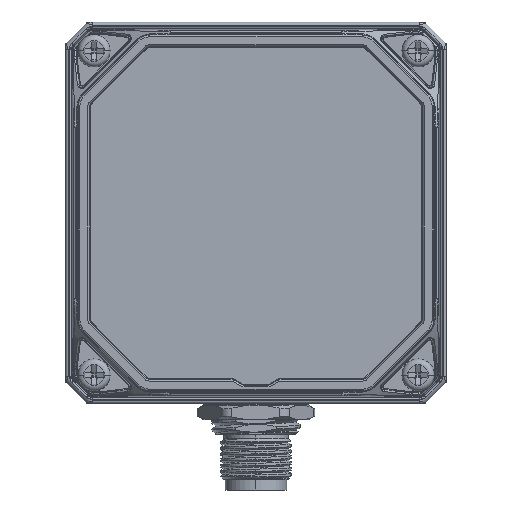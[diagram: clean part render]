
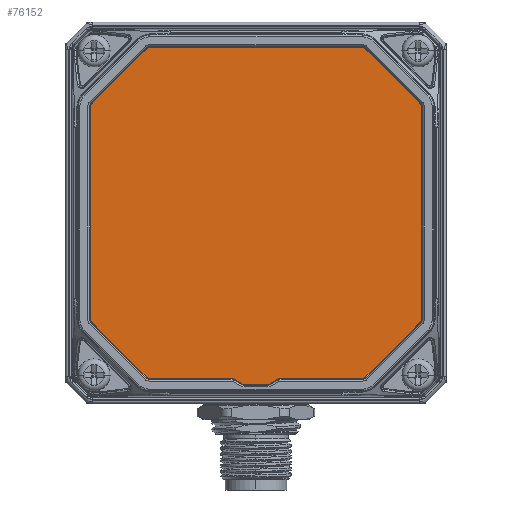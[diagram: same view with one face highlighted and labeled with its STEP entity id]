
A CAD part, left-side view. The second image highlights one B-rep face of the part: STEP entity #76152.
In plain terms, the highlighted planar face has unit normal (-1, 0, 0).
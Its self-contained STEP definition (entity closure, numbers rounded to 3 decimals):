
#23614=DIRECTION('',(0.,-1.,0.));
#23615=VECTOR('',#23614,13.918);
#23616=CARTESIAN_POINT('',(-29.4,18.086,-28.3));
#23617=LINE('',#23616,#23615);
#23622=CARTESIAN_POINT('',(-29.4,1.9,-28.3));
#23623=DIRECTION('',(1.,0.,0.));
#23624=DIRECTION('',(0.,0.,-1.));
#23625=AXIS2_PLACEMENT_3D('',#23622,#23623,#23624);
#23627=DIRECTION('',(0.,0.866,0.5));
#23628=VECTOR('',#23627,1.464);
#23629=CARTESIAN_POINT('',(-29.4,2.4,-29.166));
#23630=LINE('',#23629,#23628);
#23631=CARTESIAN_POINT('',(-29.4,4.168,-29.3));
#23632=DIRECTION('',(-1.,0.,0.));
#23633=DIRECTION('',(0.,-0.5,0.866));
#23634=AXIS2_PLACEMENT_3D('',#23631,#23632,#23633);
#23636=CARTESIAN_POINT('',(-29.4,18.086,-27.3));
#23637=DIRECTION('',(1.,0.,0.));
#23638=DIRECTION('',(0.,0.,-1.));
#23639=AXIS2_PLACEMENT_3D('',#23636,#23637,#23638);
#23641=DIRECTION('',(0.,0.707,0.707));
#23642=VECTOR('',#23641,13.031);
#23643=CARTESIAN_POINT('',(-29.4,18.793,-28.007));
#23644=LINE('',#23643,#23642);
#23645=CARTESIAN_POINT('',(-29.4,27.3,-18.086));
#23646=DIRECTION('',(1.,0.,0.));
#23647=DIRECTION('',(0.,0.707,-0.707));
#23648=AXIS2_PLACEMENT_3D('',#23645,#23646,#23647);
#23650=CARTESIAN_POINT('',(-29.4,27.3,18.086));
#23651=DIRECTION('',(1.,0.,0.));
#23652=DIRECTION('',(0.,1.,0.));
#23653=AXIS2_PLACEMENT_3D('',#23650,#23651,#23652);
#23655=DIRECTION('',(0.,-0.707,0.707));
#23656=VECTOR('',#23655,13.031);
#23657=CARTESIAN_POINT('',(-29.4,28.007,18.793));
#23658=LINE('',#23657,#23656);
#23659=CARTESIAN_POINT('',(-29.4,18.086,27.3));
#23660=DIRECTION('',(1.,0.,0.));
#23661=DIRECTION('',(0.,0.707,0.707));
#23662=AXIS2_PLACEMENT_3D('',#23659,#23660,#23661);
#23664=CARTESIAN_POINT('',(-29.4,-18.086,27.3));
#23665=DIRECTION('',(1.,0.,0.));
#23666=DIRECTION('',(0.,0.,1.));
#23667=AXIS2_PLACEMENT_3D('',#23664,#23665,#23666);
#23669=DIRECTION('',(0.,-0.707,-0.707));
#23670=VECTOR('',#23669,13.031);
#23671=CARTESIAN_POINT('',(-29.4,-18.793,28.007));
#23672=LINE('',#23671,#23670);
#23673=CARTESIAN_POINT('',(-29.4,-27.3,18.086));
#23674=DIRECTION('',(1.,0.,0.));
#23675=DIRECTION('',(0.,-0.707,0.707));
#23676=AXIS2_PLACEMENT_3D('',#23673,#23674,#23675);
#23678=CARTESIAN_POINT('',(-29.4,-27.3,-18.086));
#23679=DIRECTION('',(1.,0.,0.));
#23680=DIRECTION('',(0.,-1.,0.));
#23681=AXIS2_PLACEMENT_3D('',#23678,#23679,#23680);
#23683=DIRECTION('',(0.,0.707,-0.707));
#23684=VECTOR('',#23683,13.031);
#23685=CARTESIAN_POINT('',(-29.4,-28.007,-18.793));
#23686=LINE('',#23685,#23684);
#23687=CARTESIAN_POINT('',(-29.4,-18.086,-27.3));
#23688=DIRECTION('',(1.,0.,0.));
#23689=DIRECTION('',(0.,-0.707,-0.707));
#23690=AXIS2_PLACEMENT_3D('',#23687,#23688,#23689);
#23692=CARTESIAN_POINT('',(-29.4,-4.168,-29.3));
#23693=DIRECTION('',(-1.,0.,0.));
#23694=DIRECTION('',(0.,0.,1.));
#23695=AXIS2_PLACEMENT_3D('',#23692,#23693,#23694);
#23697=DIRECTION('',(0.,0.866,-0.5));
#23698=VECTOR('',#23697,1.464);
#23699=CARTESIAN_POINT('',(-29.4,-3.668,-28.434));
#23700=LINE('',#23699,#23698);
#23701=CARTESIAN_POINT('',(-29.4,-1.9,-28.3));
#23702=DIRECTION('',(1.,0.,0.));
#23703=DIRECTION('',(0.,-0.5,-0.866));
#23704=AXIS2_PLACEMENT_3D('',#23701,#23702,#23703);
#23718=DIRECTION('',(0.,0.,-1.));
#23719=VECTOR('',#23718,36.172);
#23720=CARTESIAN_POINT('',(-29.4,28.3,18.086));
#23721=LINE('',#23720,#23719);
#23742=DIRECTION('',(0.,1.,0.));
#23743=VECTOR('',#23742,36.172);
#23744=CARTESIAN_POINT('',(-29.4,-18.086,28.3));
#23745=LINE('',#23744,#23743);
#23770=DIRECTION('',(0.,0.,1.));
#23771=VECTOR('',#23770,36.172);
#23772=CARTESIAN_POINT('',(-29.4,-28.3,-18.086));
#23773=LINE('',#23772,#23771);
#23790=DIRECTION('',(0.,-1.,0.));
#23791=VECTOR('',#23790,13.918);
#23792=CARTESIAN_POINT('',(-29.4,-4.168,-28.3));
#23793=LINE('',#23792,#23791);
#23814=DIRECTION('',(0.,-1.,0.));
#23815=VECTOR('',#23814,3.8);
#23816=CARTESIAN_POINT('',(-29.4,1.9,-29.3));
#23817=LINE('',#23816,#23815);
#29564=CARTESIAN_POINT('',(-29.4,1.9,-29.3));
#29565=CARTESIAN_POINT('',(-29.4,2.4,-29.166));
#29566=VERTEX_POINT('',#29564);
#29567=VERTEX_POINT('',#29565);
#29568=CARTESIAN_POINT('',(-29.4,3.668,-28.434));
#29569=VERTEX_POINT('',#29568);
#29570=CARTESIAN_POINT('',(-29.4,4.168,-28.3));
#29571=VERTEX_POINT('',#29570);
#29572=CARTESIAN_POINT('',(-29.4,18.086,-28.3));
#29573=VERTEX_POINT('',#29572);
#29574=CARTESIAN_POINT('',(-29.4,18.793,-28.007));
#29575=VERTEX_POINT('',#29574);
#29576=CARTESIAN_POINT('',(-29.4,28.007,-18.793));
#29577=VERTEX_POINT('',#29576);
#29578=CARTESIAN_POINT('',(-29.4,28.3,-18.086));
#29579=VERTEX_POINT('',#29578);
#29580=CARTESIAN_POINT('',(-29.4,28.3,18.086));
#29581=VERTEX_POINT('',#29580);
#29582=CARTESIAN_POINT('',(-29.4,28.007,18.793));
#29583=VERTEX_POINT('',#29582);
#29584=CARTESIAN_POINT('',(-29.4,18.793,28.007));
#29585=VERTEX_POINT('',#29584);
#29586=CARTESIAN_POINT('',(-29.4,18.086,28.3));
#29587=VERTEX_POINT('',#29586);
#29588=CARTESIAN_POINT('',(-29.4,-18.086,28.3));
#29589=VERTEX_POINT('',#29588);
#29590=CARTESIAN_POINT('',(-29.4,-18.793,28.007));
#29591=VERTEX_POINT('',#29590);
#29592=CARTESIAN_POINT('',(-29.4,-28.007,18.793));
#29593=VERTEX_POINT('',#29592);
#29594=CARTESIAN_POINT('',(-29.4,-28.3,18.086));
#29595=VERTEX_POINT('',#29594);
#29596=CARTESIAN_POINT('',(-29.4,-28.3,-18.086));
#29597=VERTEX_POINT('',#29596);
#29598=CARTESIAN_POINT('',(-29.4,-28.007,-18.793));
#29599=VERTEX_POINT('',#29598);
#29600=CARTESIAN_POINT('',(-29.4,-18.793,-28.007));
#29601=VERTEX_POINT('',#29600);
#29602=CARTESIAN_POINT('',(-29.4,-18.086,-28.3));
#29603=VERTEX_POINT('',#29602);
#29604=CARTESIAN_POINT('',(-29.4,-4.168,-28.3));
#29605=VERTEX_POINT('',#29604);
#29606=CARTESIAN_POINT('',(-29.4,-3.668,-28.434));
#29607=VERTEX_POINT('',#29606);
#29608=CARTESIAN_POINT('',(-29.4,-2.4,-29.166));
#29609=VERTEX_POINT('',#29608);
#29610=CARTESIAN_POINT('',(-29.4,-1.9,-29.3));
#29611=VERTEX_POINT('',#29610);
#76102=CARTESIAN_POINT('',(-29.4,0.,-0.5));
#76103=DIRECTION('',(1.,0.,0.));
#76104=DIRECTION('',(0.,0.,1.));
#76105=AXIS2_PLACEMENT_3D('',#76102,#76103,#76104);
#76106=PLANE('',#76105);
#76107=ORIENTED_EDGE('',*,*,#76039,.T.);
#76108=ORIENTED_EDGE('',*,*,#76055,.T.);
#76109=ORIENTED_EDGE('',*,*,#76067,.T.);
#76110=ORIENTED_EDGE('',*,*,#76083,.F.);
#76111=ORIENTED_EDGE('',*,*,#76093,.T.);
#76113=ORIENTED_EDGE('',*,*,#76112,.T.);
#76115=ORIENTED_EDGE('',*,*,#76114,.T.);
#76117=ORIENTED_EDGE('',*,*,#76116,.F.);
#76119=ORIENTED_EDGE('',*,*,#76118,.T.);
#76121=ORIENTED_EDGE('',*,*,#76120,.T.);
#76123=ORIENTED_EDGE('',*,*,#76122,.T.);
#76125=ORIENTED_EDGE('',*,*,#76124,.F.);
#76127=ORIENTED_EDGE('',*,*,#76126,.T.);
#76129=ORIENTED_EDGE('',*,*,#76128,.T.);
#76131=ORIENTED_EDGE('',*,*,#76130,.T.);
#76133=ORIENTED_EDGE('',*,*,#76132,.F.);
#76135=ORIENTED_EDGE('',*,*,#76134,.T.);
#76137=ORIENTED_EDGE('',*,*,#76136,.T.);
#76139=ORIENTED_EDGE('',*,*,#76138,.T.);
#76141=ORIENTED_EDGE('',*,*,#76140,.F.);
#76143=ORIENTED_EDGE('',*,*,#76142,.T.);
#76145=ORIENTED_EDGE('',*,*,#76144,.T.);
#76147=ORIENTED_EDGE('',*,*,#76146,.T.);
#76149=ORIENTED_EDGE('',*,*,#76148,.F.);
#76150=EDGE_LOOP('',(#76107,#76108,#76109,#76110,#76111,#76113,#76115,#76117,
#76119,#76121,#76123,#76125,#76127,#76129,#76131,#76133,#76135,#76137,#76139,
#76141,#76143,#76145,#76147,#76149));
#76151=FACE_OUTER_BOUND('',#76150,.F.);
#76152=ADVANCED_FACE('',(#76151),#76106,.F.);
#23626=CIRCLE('',#23625,1.);
#23635=CIRCLE('',#23634,1.);
#23640=CIRCLE('',#23639,1.);
#23649=CIRCLE('',#23648,1.);
#23654=CIRCLE('',#23653,1.);
#23663=CIRCLE('',#23662,1.);
#23668=CIRCLE('',#23667,1.);
#23677=CIRCLE('',#23676,1.);
#23682=CIRCLE('',#23681,1.);
#23691=CIRCLE('',#23690,1.);
#23696=CIRCLE('',#23695,1.);
#23705=CIRCLE('',#23704,1.);
#76039=EDGE_CURVE('',#29566,#29567,#23626,.T.);
#76055=EDGE_CURVE('',#29567,#29569,#23630,.T.);
#76067=EDGE_CURVE('',#29569,#29571,#23635,.T.);
#76083=EDGE_CURVE('',#29573,#29571,#23617,.T.);
#76093=EDGE_CURVE('',#29573,#29575,#23640,.T.);
#76112=EDGE_CURVE('',#29575,#29577,#23644,.T.);
#76114=EDGE_CURVE('',#29577,#29579,#23649,.T.);
#76116=EDGE_CURVE('',#29581,#29579,#23721,.T.);
#76118=EDGE_CURVE('',#29581,#29583,#23654,.T.);
#76120=EDGE_CURVE('',#29583,#29585,#23658,.T.);
#76122=EDGE_CURVE('',#29585,#29587,#23663,.T.);
#76124=EDGE_CURVE('',#29589,#29587,#23745,.T.);
#76126=EDGE_CURVE('',#29589,#29591,#23668,.T.);
#76128=EDGE_CURVE('',#29591,#29593,#23672,.T.);
#76130=EDGE_CURVE('',#29593,#29595,#23677,.T.);
#76132=EDGE_CURVE('',#29597,#29595,#23773,.T.);
#76134=EDGE_CURVE('',#29597,#29599,#23682,.T.);
#76136=EDGE_CURVE('',#29599,#29601,#23686,.T.);
#76138=EDGE_CURVE('',#29601,#29603,#23691,.T.);
#76140=EDGE_CURVE('',#29605,#29603,#23793,.T.);
#76142=EDGE_CURVE('',#29605,#29607,#23696,.T.);
#76144=EDGE_CURVE('',#29607,#29609,#23700,.T.);
#76146=EDGE_CURVE('',#29609,#29611,#23705,.T.);
#76148=EDGE_CURVE('',#29566,#29611,#23817,.T.);
